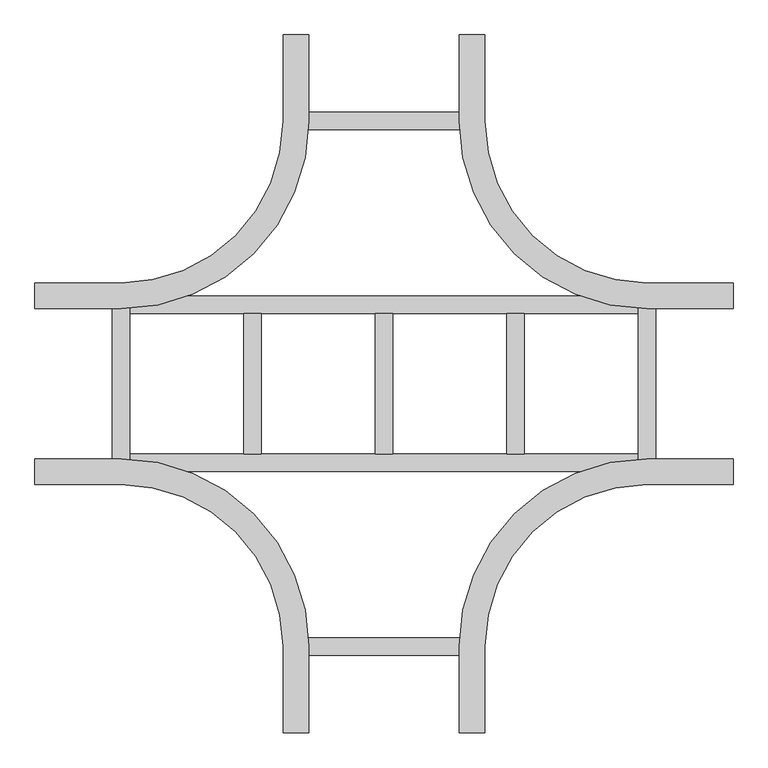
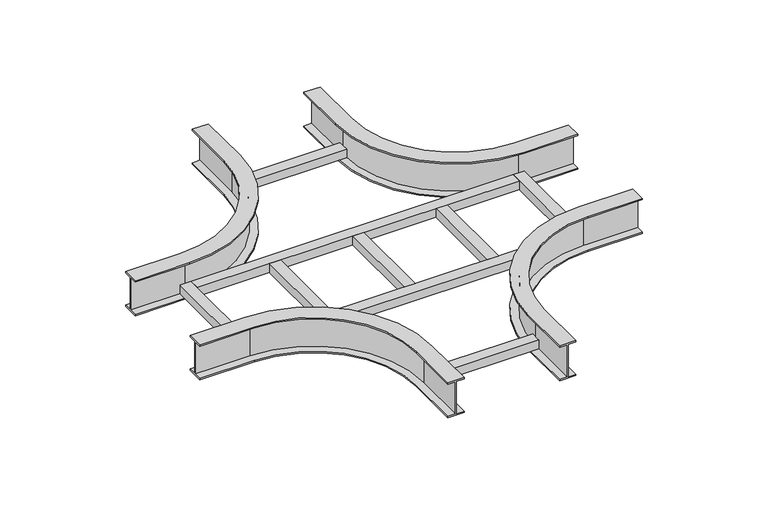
"""IFC4 building model written with IfcOpenShell, lengths in millimetres: cable carrier fitting geometry, CRI_Horizontal Cross-Over-Basortrav : Basortrav CRI-12."""

from ifc_helpers import new_model, si_unit, frame, origin, place, context, project, spatial, polyline, circle_curve, outline, extrude, source, transform, mapped, element, save
from ifc_brep_helpers import plane_surface, cylinder_surface, revolved_surface, advanced_brep


def cable_carrier_fitting_13366d08(model_context):
    return source(origin(), model_context, "Body", "SolidModel", [
        advanced_brep(
        [(607.2, 175.5115599, 46.8), (607.2, 175.5115599, 50.8), (607.2, 131.0115599, 50.8), (607.2, 131.0115599, 46.8), (607.2, 152.4, 46.8), (607.2, 152.4, -46.8), (607.2, 131.0115599, -46.8), (607.2, 131.0115599, -50.8), (607.2, 175.5115599, -50.8), (607.2, 175.5115599, -46.8), (607.2, 154.4, -46.8), (607.2, 154.4, 46.8), (175.5115599, 607.2, 46.8), (154.4, 607.2, 46.8), (154.4, 607.2, -46.8), (175.5115599, 607.2, -46.8), (175.5115599, 607.2, -50.8), (131.0115599, 607.2, -50.8), (131.0115599, 607.2, -46.8), (152.4, 607.2, -46.8), (152.4, 607.2, 46.8), (131.0115599, 607.2, 46.8), (131.0115599, 607.2, 50.8), (175.5115599, 607.2, 50.8), (457.2, 175.5115599, 46.8), (457.2, 175.5115599, 50.8), (175.5115599, 457.2, 50.8), (131.0115599, 457.2, 50.8), (457.2, 131.0115599, 50.8), (457.2, 131.0115599, 46.8), (131.0115599, 457.2, 46.8), (152.4, 457.2, 46.8), (457.2, 152.4, 46.8), (457.2, 152.4, -46.8), (152.4, 457.2, -46.8), (131.0115599, 457.2, -46.8), (457.2, 131.0115599, -46.8), (457.2, 131.0115599, -50.8), (131.0115599, 457.2, -50.8), (175.5115599, 457.2, -50.8), (457.2, 175.5115599, -50.8), (457.2, 175.5115599, -46.8), (175.5115599, 457.2, -46.8), (154.4, 457.2, -46.8), (457.2, 154.4, -46.8), (457.2, 154.4, 46.8), (154.4, 457.2, 46.8), (175.5115599, 457.2, 46.8)],
        [
            (0, 1),
            (1, 2),
            (2, 3),
            (3, 4),
            (4, 5),
            (5, 6),
            (6, 7),
            (7, 8),
            (8, 9),
            (9, 10),
            (10, 11),
            (11, 0),
            (12, 13),
            (13, 14),
            (14, 15),
            (15, 16),
            (16, 17),
            (17, 18),
            (18, 19),
            (19, 20),
            (20, 21),
            (21, 22),
            (22, 23),
            (23, 12),
            (0, 24),
            (24, 25),
            (25, 1),
            (25, 26, circle_curve(frame((457.2, 457.2, 50.8), z_axis=(0.0, 0.0, -1.0), x_axis=(0.0, -1.0, 0.0)), 281.6884401)),
            (26, 23),
            (22, 27),
            (27, 28, circle_curve(frame((457.2, 457.2, 50.8), z_axis=(0.0, 0.0, 1.0), x_axis=(0.0, -1.0, 0.0)), 326.1884401)),
            (28, 2),
            (28, 29),
            (29, 3),
            (29, 30, circle_curve(frame((457.2, 457.2, 46.8), z_axis=(0.0, 0.0, -1.0), x_axis=(0.0, -1.0, 0.0)), 326.1884401)),
            (30, 21),
            (20, 31),
            (31, 32, circle_curve(frame((457.2, 457.2, 46.8), z_axis=(0.0, 0.0, 1.0), x_axis=(0.0, -1.0, 0.0)), 304.8)),
            (32, 4),
            (32, 33),
            (33, 5),
            (33, 34, circle_curve(frame((457.2, 457.2, -46.8), z_axis=(0.0, 0.0, -1.0), x_axis=(0.0, -1.0, 0.0)), 304.8)),
            (34, 19),
            (18, 35),
            (35, 36, circle_curve(frame((457.2, 457.2, -46.8), z_axis=(0.0, 0.0, 1.0), x_axis=(0.0, -1.0, 0.0)), 326.1884401)),
            (36, 6),
            (36, 37),
            (37, 7),
            (37, 38, circle_curve(frame((457.2, 457.2, -50.8), z_axis=(0.0, 0.0, -1.0), x_axis=(0.0, -1.0, 0.0)), 326.1884401)),
            (38, 17),
            (16, 39),
            (39, 40, circle_curve(frame((457.2, 457.2, -50.8), z_axis=(0.0, 0.0, 1.0), x_axis=(0.0, -1.0, 0.0)), 281.6884401)),
            (40, 8),
            (40, 41),
            (41, 9),
            (41, 42, circle_curve(frame((457.2, 457.2, -46.8), z_axis=(0.0, 0.0, -1.0), x_axis=(0.0, -1.0, 0.0)), 281.6884401)),
            (42, 15),
            (14, 43),
            (43, 44, circle_curve(frame((457.2, 457.2, -46.8), z_axis=(0.0, 0.0, 1.0), x_axis=(0.0, -1.0, 0.0)), 302.8)),
            (44, 10),
            (44, 45),
            (45, 11),
            (45, 46, circle_curve(frame((457.2, 457.2, 46.8), z_axis=(0.0, 0.0, -1.0), x_axis=(0.0, -1.0, 0.0)), 302.8)),
            (46, 13),
            (12, 47),
            (47, 24, circle_curve(frame((457.2, 457.2, 46.8), z_axis=(0.0, 0.0, 1.0), x_axis=(0.0, -1.0, 0.0)), 281.6884401)),
            (47, 26),
            (27, 30),
            (31, 34),
            (35, 38),
            (39, 42),
            (43, 46),
        ],
        [
            plane_surface(frame((607.2, 152.4, 50.8), z_axis=(1.0, 0.0, 0.0), x_axis=(0.0, 0.0, 1.0))),
            plane_surface(frame((152.4, 607.2, 50.8), z_axis=(0.0, 1.0, 0.0), x_axis=(0.0, 0.0, 1.0))),
            plane_surface(frame((607.2, 175.5115599, 46.8), z_axis=(0.0, 1.0, 0.0), x_axis=(-1.0, 0.0, 0.0))),
            plane_surface(frame((607.2, 175.5115599, 50.8), z_axis=(0.0, 0.0, 1.0), x_axis=(-1.0, 0.0, 0.0))),
            plane_surface(frame((607.2, 131.0115599, 50.8), z_axis=(0.0, -1.0, 0.0), x_axis=(-1.0, 0.0, 0.0))),
            plane_surface(frame((607.2, 131.0115599, 46.8), z_axis=(0.0, 0.0, -1.0), x_axis=(-1.0, 0.0, 0.0))),
            plane_surface(frame((607.2, 152.4, 46.8), z_axis=(0.0, -1.0, 0.0), x_axis=(-1.0, 0.0, 0.0))),
            plane_surface(frame((607.2, 152.4, -46.8), z_axis=(0.0, 0.0, 1.0), x_axis=(-1.0, 0.0, 0.0))),
            plane_surface(frame((607.2, 131.0115599, -46.8), z_axis=(0.0, -1.0, 0.0), x_axis=(-1.0, 0.0, 0.0))),
            plane_surface(frame((607.2, 131.0115599, -50.8), z_axis=(0.0, 0.0, -1.0), x_axis=(-1.0, 0.0, 0.0))),
            plane_surface(frame((607.2, 175.5115599, -50.8), z_axis=(0.0, 1.0, 0.0), x_axis=(-1.0, 0.0, 0.0))),
            plane_surface(frame((607.2, 175.5115599, -46.8), z_axis=(0.0, 0.0, 1.0), x_axis=(-1.0, 0.0, 0.0))),
            plane_surface(frame((607.2, 154.4, -46.8), z_axis=(0.0, 1.0, 0.0), x_axis=(-1.0, 0.0, 0.0))),
            plane_surface(frame((607.2, 154.4, 46.8), z_axis=(0.0, 0.0, -1.0), x_axis=(-1.0, 0.0, 0.0))),
            revolved_surface(polyline([(457.2, 175.5115599, 46.8), (457.2, 175.5115599, 50.8)]), (457.2, 457.2, 50.8), (0.0, 0.0, -1.0)),
            cylinder_surface(frame((457.2, 457.2, 50.8), z_axis=(0.0, 0.0, -1.0), x_axis=(0.0, -1.0, 0.0)), 326.1884401),
            cylinder_surface(frame((457.2, 457.2, 50.8), z_axis=(0.0, 0.0, -1.0), x_axis=(0.0, -1.0, 0.0)), 304.8),
            revolved_surface(polyline([(457.2, 175.5115599, -50.8), (457.2, 175.5115599, -46.8)]), (457.2, 457.2, 50.8), (0.0, 0.0, -1.0)),
            revolved_surface(polyline([(457.2, 154.39999999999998, -46.8), (457.2, 154.39999999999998, 46.8)]), (457.2, 457.2, 50.8), (0.0, 0.0, -1.0)),
            plane_surface(frame((175.5115599, 457.2, 46.8), z_axis=(1.0, 0.0, 0.0), x_axis=(0.0, 1.0, 0.0))),
            plane_surface(frame((131.0115599, 457.2, 50.8), z_axis=(-1.0, 0.0, 0.0), x_axis=(0.0, 1.0, 0.0))),
            plane_surface(frame((152.4, 457.2, 46.8), z_axis=(-1.0, 0.0, 0.0), x_axis=(0.0, 1.0, 0.0))),
            plane_surface(frame((131.0115599, 457.2, -46.8), z_axis=(-1.0, 0.0, 0.0), x_axis=(0.0, 1.0, 0.0))),
            plane_surface(frame((175.5115599, 457.2, -50.8), z_axis=(1.0, 0.0, 0.0), x_axis=(0.0, 1.0, 0.0))),
            plane_surface(frame((154.4, 457.2, -46.8), z_axis=(1.0, 0.0, 0.0), x_axis=(0.0, 1.0, 0.0))),
        ],
        [
            (0, [[1, 2, 3, 4, 5, 6, 7, 8, 9, 10, 11, 12]]),
            (1, [[13, 14, 15, 16, 17, 18, 19, 20, 21, 22, 23, 24]]),
            (2, [[-1, 25, 26, 27]]),
            (3, [[-2, -27, 28, 29, -23, 30, 31, 32]]),
            (4, [[-3, -32, 33, 34]]),
            (5, [[-4, -34, 35, 36, -21, 37, 38, 39]]),
            (6, [[-5, -39, 40, 41]]),
            (7, [[-6, -41, 42, 43, -19, 44, 45, 46]]),
            (8, [[-7, -46, 47, 48]]),
            (9, [[-8, -48, 49, 50, -17, 51, 52, 53]]),
            (10, [[-9, -53, 54, 55]]),
            (11, [[-10, -55, 56, 57, -15, 58, 59, 60]]),
            (12, [[-11, -60, 61, 62]]),
            (13, [[-12, -62, 63, 64, -13, 65, 66, -25]]),
            (14, [[-28, -26, -66, 67]]),
            (15, [[-35, -33, -31, 68]]),
            (16, [[-42, -40, -38, 69]]),
            (15, [[-49, -47, -45, 70]]),
            (17, [[-56, -54, -52, 71]]),
            (18, [[-63, -61, -59, 72]]),
            (19, [[-67, -65, -24, -29]]),
            (20, [[-68, -30, -22, -36]]),
            (21, [[-69, -37, -20, -43]]),
            (22, [[-70, -44, -18, -50]]),
            (23, [[-71, -51, -16, -57]]),
            (24, [[-72, -58, -14, -64]]),
        ],
    ),
        advanced_brep(
        [(-175.5115599, 607.2, 46.8), (-175.5115599, 607.2, 50.8), (-131.0115599, 607.2, 50.8), (-131.0115599, 607.2, 46.8), (-152.4, 607.2, 46.8), (-152.4, 607.2, -46.8), (-131.0115599, 607.2, -46.8), (-131.0115599, 607.2, -50.8), (-175.5115599, 607.2, -50.8), (-175.5115599, 607.2, -46.8), (-154.4, 607.2, -46.8), (-154.4, 607.2, 46.8), (-607.2, 175.5115599, 46.8), (-607.2, 154.4, 46.8), (-607.2, 154.4, -46.8), (-607.2, 175.5115599, -46.8), (-607.2, 175.5115599, -50.8), (-607.2, 131.0115599, -50.8), (-607.2, 131.0115599, -46.8), (-607.2, 152.4, -46.8), (-607.2, 152.4, 46.8), (-607.2, 131.0115599, 46.8), (-607.2, 131.0115599, 50.8), (-607.2, 175.5115599, 50.8), (-175.5115599, 457.2, 46.8), (-175.5115599, 457.2, 50.8), (-457.2, 175.5115599, 50.8), (-457.2, 131.0115599, 50.8), (-131.0115599, 457.2, 50.8), (-131.0115599, 457.2, 46.8), (-457.2, 131.0115599, 46.8), (-457.2, 152.4, 46.8), (-152.4, 457.2, 46.8), (-152.4, 457.2, -46.8), (-457.2, 152.4, -46.8), (-457.2, 131.0115599, -46.8), (-131.0115599, 457.2, -46.8), (-131.0115599, 457.2, -50.8), (-457.2, 131.0115599, -50.8), (-457.2, 175.5115599, -50.8), (-175.5115599, 457.2, -50.8), (-175.5115599, 457.2, -46.8), (-457.2, 175.5115599, -46.8), (-457.2, 154.4, -46.8), (-154.4, 457.2, -46.8), (-154.4, 457.2, 46.8), (-457.2, 154.4, 46.8), (-457.2, 175.5115599, 46.8)],
        [
            (0, 1),
            (1, 2),
            (2, 3),
            (3, 4),
            (4, 5),
            (5, 6),
            (6, 7),
            (7, 8),
            (8, 9),
            (9, 10),
            (10, 11),
            (11, 0),
            (12, 13),
            (13, 14),
            (14, 15),
            (15, 16),
            (16, 17),
            (17, 18),
            (18, 19),
            (19, 20),
            (20, 21),
            (21, 22),
            (22, 23),
            (23, 12),
            (0, 24),
            (24, 25),
            (25, 1),
            (25, 26, circle_curve(frame((-457.2, 457.2, 50.8), z_axis=(0.0, 0.0, -1.0), x_axis=(1.0, 0.0, 0.0)), 281.6884401)),
            (26, 23),
            (22, 27),
            (27, 28, circle_curve(frame((-457.2, 457.2, 50.8), z_axis=(0.0, 0.0, 1.0), x_axis=(1.0, 0.0, 0.0)), 326.1884401)),
            (28, 2),
            (28, 29),
            (29, 3),
            (29, 30, circle_curve(frame((-457.2, 457.2, 46.8), z_axis=(0.0, 0.0, -1.0), x_axis=(1.0, 0.0, 0.0)), 326.1884401)),
            (30, 21),
            (20, 31),
            (31, 32, circle_curve(frame((-457.2, 457.2, 46.8), z_axis=(0.0, 0.0, 1.0), x_axis=(1.0, 0.0, 0.0)), 304.8)),
            (32, 4),
            (32, 33),
            (33, 5),
            (33, 34, circle_curve(frame((-457.2, 457.2, -46.8), z_axis=(0.0, 0.0, -1.0), x_axis=(1.0, 0.0, 0.0)), 304.8)),
            (34, 19),
            (18, 35),
            (35, 36, circle_curve(frame((-457.2, 457.2, -46.8), z_axis=(0.0, 0.0, 1.0), x_axis=(1.0, 0.0, 0.0)), 326.1884401)),
            (36, 6),
            (36, 37),
            (37, 7),
            (37, 38, circle_curve(frame((-457.2, 457.2, -50.8), z_axis=(0.0, 0.0, -1.0), x_axis=(1.0, 0.0, 0.0)), 326.1884401)),
            (38, 17),
            (16, 39),
            (39, 40, circle_curve(frame((-457.2, 457.2, -50.8), z_axis=(0.0, 0.0, 1.0), x_axis=(1.0, 0.0, 0.0)), 281.6884401)),
            (40, 8),
            (40, 41),
            (41, 9),
            (41, 42, circle_curve(frame((-457.2, 457.2, -46.8), z_axis=(0.0, 0.0, -1.0), x_axis=(1.0, 0.0, 0.0)), 281.6884401)),
            (42, 15),
            (14, 43),
            (43, 44, circle_curve(frame((-457.2, 457.2, -46.8), z_axis=(0.0, 0.0, 1.0), x_axis=(1.0, 0.0, 0.0)), 302.8)),
            (44, 10),
            (44, 45),
            (45, 11),
            (45, 46, circle_curve(frame((-457.2, 457.2, 46.8), z_axis=(0.0, 0.0, -1.0), x_axis=(1.0, 0.0, 0.0)), 302.8)),
            (46, 13),
            (12, 47),
            (47, 24, circle_curve(frame((-457.2, 457.2, 46.8), z_axis=(0.0, 0.0, 1.0), x_axis=(1.0, 0.0, 0.0)), 281.6884401)),
            (47, 26),
            (27, 30),
            (31, 34),
            (35, 38),
            (39, 42),
            (43, 46),
        ],
        [
            plane_surface(frame((-152.4, 607.2, 50.8), z_axis=(0.0, 1.0, 0.0), x_axis=(0.0, 0.0, 1.0))),
            plane_surface(frame((-607.2, 152.4, 50.8), z_axis=(-1.0, 0.0, 0.0), x_axis=(0.0, 0.0, 1.0))),
            plane_surface(frame((-175.5115599, 607.2, 46.8), z_axis=(-1.0, 0.0, 0.0), x_axis=(0.0, -1.0, 0.0))),
            plane_surface(frame((-175.5115599, 607.2, 50.8), z_axis=(0.0, 0.0, 1.0), x_axis=(0.0, -1.0, 0.0))),
            plane_surface(frame((-131.0115599, 607.2, 50.8), z_axis=(1.0, 0.0, 0.0), x_axis=(0.0, -1.0, 0.0))),
            plane_surface(frame((-131.0115599, 607.2, 46.8), z_axis=(0.0, 0.0, -1.0), x_axis=(0.0, -1.0, 0.0))),
            plane_surface(frame((-152.4, 607.2, 46.8), z_axis=(1.0, 0.0, 0.0), x_axis=(0.0, -1.0, 0.0))),
            plane_surface(frame((-152.4, 607.2, -46.8), z_axis=(0.0, 0.0, 1.0), x_axis=(0.0, -1.0, 0.0))),
            plane_surface(frame((-131.0115599, 607.2, -46.8), z_axis=(1.0, 0.0, 0.0), x_axis=(0.0, -1.0, 0.0))),
            plane_surface(frame((-131.0115599, 607.2, -50.8), z_axis=(0.0, 0.0, -1.0), x_axis=(0.0, -1.0, 0.0))),
            plane_surface(frame((-175.5115599, 607.2, -50.8), z_axis=(-1.0, 0.0, 0.0), x_axis=(0.0, -1.0, 0.0))),
            plane_surface(frame((-175.5115599, 607.2, -46.8), z_axis=(0.0, 0.0, 1.0), x_axis=(0.0, -1.0, 0.0))),
            plane_surface(frame((-154.4, 607.2, -46.8), z_axis=(-1.0, 0.0, 0.0), x_axis=(0.0, -1.0, 0.0))),
            plane_surface(frame((-154.4, 607.2, 46.8), z_axis=(0.0, 0.0, -1.0), x_axis=(0.0, -1.0, 0.0))),
            revolved_surface(polyline([(-175.5115599, 457.2, 46.8), (-175.5115599, 457.2, 50.8)]), (-457.2, 457.2, 50.8), (0.0, 0.0, -1.0)),
            cylinder_surface(frame((-457.2, 457.2, 50.8), z_axis=(0.0, 0.0, -1.0), x_axis=(1.0, 0.0, 0.0)), 326.1884401),
            cylinder_surface(frame((-457.2, 457.2, 50.8), z_axis=(0.0, 0.0, -1.0), x_axis=(1.0, 0.0, 0.0)), 304.8),
            revolved_surface(polyline([(-175.5115599, 457.2, -50.8), (-175.5115599, 457.2, -46.8)]), (-457.2, 457.2, 50.8), (0.0, 0.0, -1.0)),
            revolved_surface(polyline([(-154.39999999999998, 457.2, -46.8), (-154.39999999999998, 457.2, 46.8)]), (-457.2, 457.2, 50.8), (0.0, 0.0, -1.0)),
            plane_surface(frame((-457.2, 175.5115599, 46.8), z_axis=(0.0, 1.0, 0.0), x_axis=(-1.0, 0.0, 0.0))),
            plane_surface(frame((-457.2, 131.0115599, 50.8), z_axis=(0.0, -1.0, 0.0), x_axis=(-1.0, 0.0, 0.0))),
            plane_surface(frame((-457.2, 152.4, 46.8), z_axis=(0.0, -1.0, 0.0), x_axis=(-1.0, 0.0, 0.0))),
            plane_surface(frame((-457.2, 131.0115599, -46.8), z_axis=(0.0, -1.0, 0.0), x_axis=(-1.0, 0.0, 0.0))),
            plane_surface(frame((-457.2, 175.5115599, -50.8), z_axis=(0.0, 1.0, 0.0), x_axis=(-1.0, 0.0, 0.0))),
            plane_surface(frame((-457.2, 154.4, -46.8), z_axis=(0.0, 1.0, 0.0), x_axis=(-1.0, 0.0, 0.0))),
        ],
        [
            (0, [[1, 2, 3, 4, 5, 6, 7, 8, 9, 10, 11, 12]]),
            (1, [[13, 14, 15, 16, 17, 18, 19, 20, 21, 22, 23, 24]]),
            (2, [[-1, 25, 26, 27]]),
            (3, [[-2, -27, 28, 29, -23, 30, 31, 32]]),
            (4, [[-3, -32, 33, 34]]),
            (5, [[-4, -34, 35, 36, -21, 37, 38, 39]]),
            (6, [[-5, -39, 40, 41]]),
            (7, [[-6, -41, 42, 43, -19, 44, 45, 46]]),
            (8, [[-7, -46, 47, 48]]),
            (9, [[-8, -48, 49, 50, -17, 51, 52, 53]]),
            (10, [[-9, -53, 54, 55]]),
            (11, [[-10, -55, 56, 57, -15, 58, 59, 60]]),
            (12, [[-11, -60, 61, 62]]),
            (13, [[-12, -62, 63, 64, -13, 65, 66, -25]]),
            (14, [[-28, -26, -66, 67]]),
            (15, [[-35, -33, -31, 68]]),
            (16, [[-42, -40, -38, 69]]),
            (15, [[-49, -47, -45, 70]]),
            (17, [[-56, -54, -52, 71]]),
            (18, [[-63, -61, -59, 72]]),
            (19, [[-67, -65, -24, -29]]),
            (20, [[-68, -30, -22, -36]]),
            (21, [[-69, -37, -20, -43]]),
            (22, [[-70, -44, -18, -50]]),
            (23, [[-71, -51, -16, -57]]),
            (24, [[-72, -58, -14, -64]]),
        ],
    ),
        advanced_brep(
        [(175.5115599, -607.2, 46.8), (175.5115599, -607.2, 50.8), (131.0115599, -607.2, 50.8), (131.0115599, -607.2, 46.8), (152.4, -607.2, 46.8), (152.4, -607.2, -46.8), (131.0115599, -607.2, -46.8), (131.0115599, -607.2, -50.8), (175.5115599, -607.2, -50.8), (175.5115599, -607.2, -46.8), (154.4, -607.2, -46.8), (154.4, -607.2, 46.8), (607.2, -175.5115599, 46.8), (607.2, -154.4, 46.8), (607.2, -154.4, -46.8), (607.2, -175.5115599, -46.8), (607.2, -175.5115599, -50.8), (607.2, -131.0115599, -50.8), (607.2, -131.0115599, -46.8), (607.2, -152.4, -46.8), (607.2, -152.4, 46.8), (607.2, -131.0115599, 46.8), (607.2, -131.0115599, 50.8), (607.2, -175.5115599, 50.8), (175.5115599, -457.2, 46.8), (175.5115599, -457.2, 50.8), (457.2, -175.5115599, 50.8), (457.2, -131.0115599, 50.8), (131.0115599, -457.2, 50.8), (131.0115599, -457.2, 46.8), (457.2, -131.0115599, 46.8), (457.2, -152.4, 46.8), (152.4, -457.2, 46.8), (152.4, -457.2, -46.8), (457.2, -152.4, -46.8), (457.2, -131.0115599, -46.8), (131.0115599, -457.2, -46.8), (131.0115599, -457.2, -50.8), (457.2, -131.0115599, -50.8), (457.2, -175.5115599, -50.8), (175.5115599, -457.2, -50.8), (175.5115599, -457.2, -46.8), (457.2, -175.5115599, -46.8), (457.2, -154.4, -46.8), (154.4, -457.2, -46.8), (154.4, -457.2, 46.8), (457.2, -154.4, 46.8), (457.2, -175.5115599, 46.8)],
        [
            (0, 1),
            (1, 2),
            (2, 3),
            (3, 4),
            (4, 5),
            (5, 6),
            (6, 7),
            (7, 8),
            (8, 9),
            (9, 10),
            (10, 11),
            (11, 0),
            (12, 13),
            (13, 14),
            (14, 15),
            (15, 16),
            (16, 17),
            (17, 18),
            (18, 19),
            (19, 20),
            (20, 21),
            (21, 22),
            (22, 23),
            (23, 12),
            (0, 24),
            (24, 25),
            (25, 1),
            (25, 26, circle_curve(frame((457.2, -457.2, 50.8), z_axis=(0.0, 0.0, -1.0), x_axis=(-1.0, 0.0, 0.0)), 281.6884401)),
            (26, 23),
            (22, 27),
            (27, 28, circle_curve(frame((457.2, -457.2, 50.8), z_axis=(0.0, 0.0, 1.0), x_axis=(-1.0, 0.0, 0.0)), 326.1884401)),
            (28, 2),
            (28, 29),
            (29, 3),
            (29, 30, circle_curve(frame((457.2, -457.2, 46.8), z_axis=(0.0, 0.0, -1.0), x_axis=(-1.0, 0.0, 0.0)), 326.1884401)),
            (30, 21),
            (20, 31),
            (31, 32, circle_curve(frame((457.2, -457.2, 46.8), z_axis=(0.0, 0.0, 1.0), x_axis=(-1.0, 0.0, 0.0)), 304.8)),
            (32, 4),
            (32, 33),
            (33, 5),
            (33, 34, circle_curve(frame((457.2, -457.2, -46.8), z_axis=(0.0, 0.0, -1.0), x_axis=(-1.0, 0.0, 0.0)), 304.8)),
            (34, 19),
            (18, 35),
            (35, 36, circle_curve(frame((457.2, -457.2, -46.8), z_axis=(0.0, 0.0, 1.0), x_axis=(-1.0, 0.0, 0.0)), 326.1884401)),
            (36, 6),
            (36, 37),
            (37, 7),
            (37, 38, circle_curve(frame((457.2, -457.2, -50.8), z_axis=(0.0, 0.0, -1.0), x_axis=(-1.0, 0.0, 0.0)), 326.1884401)),
            (38, 17),
            (16, 39),
            (39, 40, circle_curve(frame((457.2, -457.2, -50.8), z_axis=(0.0, 0.0, 1.0), x_axis=(-1.0, 0.0, 0.0)), 281.6884401)),
            (40, 8),
            (40, 41),
            (41, 9),
            (41, 42, circle_curve(frame((457.2, -457.2, -46.8), z_axis=(0.0, 0.0, -1.0), x_axis=(-1.0, 0.0, 0.0)), 281.6884401)),
            (42, 15),
            (14, 43),
            (43, 44, circle_curve(frame((457.2, -457.2, -46.8), z_axis=(0.0, 0.0, 1.0), x_axis=(-1.0, 0.0, 0.0)), 302.8)),
            (44, 10),
            (44, 45),
            (45, 11),
            (45, 46, circle_curve(frame((457.2, -457.2, 46.8), z_axis=(0.0, 0.0, -1.0), x_axis=(-1.0, 0.0, 0.0)), 302.8)),
            (46, 13),
            (12, 47),
            (47, 24, circle_curve(frame((457.2, -457.2, 46.8), z_axis=(0.0, 0.0, 1.0), x_axis=(-1.0, 0.0, 0.0)), 281.6884401)),
            (47, 26),
            (27, 30),
            (31, 34),
            (35, 38),
            (39, 42),
            (43, 46),
        ],
        [
            plane_surface(frame((152.4, -607.2, 50.8), z_axis=(0.0, -1.0, 0.0), x_axis=(0.0, 0.0, 1.0))),
            plane_surface(frame((607.2, -152.4, 50.8), z_axis=(1.0, 0.0, 0.0), x_axis=(0.0, 0.0, 1.0))),
            plane_surface(frame((175.5115599, -607.2, 46.8), z_axis=(1.0, 0.0, 0.0), x_axis=(0.0, 1.0, 0.0))),
            plane_surface(frame((175.5115599, -607.2, 50.8), z_axis=(0.0, 0.0, 1.0), x_axis=(0.0, 1.0, 0.0))),
            plane_surface(frame((131.0115599, -607.2, 50.8), z_axis=(-1.0, 0.0, 0.0), x_axis=(0.0, 1.0, 0.0))),
            plane_surface(frame((131.0115599, -607.2, 46.8), z_axis=(0.0, 0.0, -1.0), x_axis=(0.0, 1.0, 0.0))),
            plane_surface(frame((152.4, -607.2, 46.8), z_axis=(-1.0, 0.0, 0.0), x_axis=(0.0, 1.0, 0.0))),
            plane_surface(frame((152.4, -607.2, -46.8), z_axis=(0.0, 0.0, 1.0), x_axis=(0.0, 1.0, 0.0))),
            plane_surface(frame((131.0115599, -607.2, -46.8), z_axis=(-1.0, 0.0, 0.0), x_axis=(0.0, 1.0, 0.0))),
            plane_surface(frame((131.0115599, -607.2, -50.8), z_axis=(0.0, 0.0, -1.0), x_axis=(0.0, 1.0, 0.0))),
            plane_surface(frame((175.5115599, -607.2, -50.8), z_axis=(1.0, 0.0, 0.0), x_axis=(0.0, 1.0, 0.0))),
            plane_surface(frame((175.5115599, -607.2, -46.8), z_axis=(0.0, 0.0, 1.0), x_axis=(0.0, 1.0, 0.0))),
            plane_surface(frame((154.4, -607.2, -46.8), z_axis=(1.0, 0.0, 0.0), x_axis=(0.0, 1.0, 0.0))),
            plane_surface(frame((154.4, -607.2, 46.8), z_axis=(0.0, 0.0, -1.0), x_axis=(0.0, 1.0, 0.0))),
            revolved_surface(polyline([(175.5115599, -457.2, 46.8), (175.5115599, -457.2, 50.8)]), (457.2, -457.2, 50.8), (0.0, 0.0, -1.0)),
            cylinder_surface(frame((457.2, -457.2, 50.8), z_axis=(0.0, 0.0, -1.0), x_axis=(-1.0, 0.0, 0.0)), 326.1884401),
            cylinder_surface(frame((457.2, -457.2, 50.8), z_axis=(0.0, 0.0, -1.0), x_axis=(-1.0, 0.0, 0.0)), 304.8),
            revolved_surface(polyline([(175.5115599, -457.2, -50.8), (175.5115599, -457.2, -46.8)]), (457.2, -457.2, 50.8), (0.0, 0.0, -1.0)),
            revolved_surface(polyline([(154.39999999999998, -457.2, -46.8), (154.39999999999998, -457.2, 46.8)]), (457.2, -457.2, 50.8), (0.0, 0.0, -1.0)),
            plane_surface(frame((457.2, -175.5115599, 46.8), z_axis=(0.0, -1.0, 0.0), x_axis=(1.0, 0.0, 0.0))),
            plane_surface(frame((457.2, -131.0115599, 50.8), z_axis=(0.0, 1.0, 0.0), x_axis=(1.0, 0.0, 0.0))),
            plane_surface(frame((457.2, -152.4, 46.8), z_axis=(0.0, 1.0, 0.0), x_axis=(1.0, 0.0, 0.0))),
            plane_surface(frame((457.2, -131.0115599, -46.8), z_axis=(0.0, 1.0, 0.0), x_axis=(1.0, 0.0, 0.0))),
            plane_surface(frame((457.2, -175.5115599, -50.8), z_axis=(0.0, -1.0, 0.0), x_axis=(1.0, 0.0, 0.0))),
            plane_surface(frame((457.2, -154.4, -46.8), z_axis=(0.0, -1.0, 0.0), x_axis=(1.0, 0.0, 0.0))),
        ],
        [
            (0, [[1, 2, 3, 4, 5, 6, 7, 8, 9, 10, 11, 12]]),
            (1, [[13, 14, 15, 16, 17, 18, 19, 20, 21, 22, 23, 24]]),
            (2, [[-1, 25, 26, 27]]),
            (3, [[-2, -27, 28, 29, -23, 30, 31, 32]]),
            (4, [[-3, -32, 33, 34]]),
            (5, [[-4, -34, 35, 36, -21, 37, 38, 39]]),
            (6, [[-5, -39, 40, 41]]),
            (7, [[-6, -41, 42, 43, -19, 44, 45, 46]]),
            (8, [[-7, -46, 47, 48]]),
            (9, [[-8, -48, 49, 50, -17, 51, 52, 53]]),
            (10, [[-9, -53, 54, 55]]),
            (11, [[-10, -55, 56, 57, -15, 58, 59, 60]]),
            (12, [[-11, -60, 61, 62]]),
            (13, [[-12, -62, 63, 64, -13, 65, 66, -25]]),
            (14, [[-28, -26, -66, 67]]),
            (15, [[-35, -33, -31, 68]]),
            (16, [[-42, -40, -38, 69]]),
            (15, [[-49, -47, -45, 70]]),
            (17, [[-56, -54, -52, 71]]),
            (18, [[-63, -61, -59, 72]]),
            (19, [[-67, -65, -24, -29]]),
            (20, [[-68, -30, -22, -36]]),
            (21, [[-69, -37, -20, -43]]),
            (22, [[-70, -44, -18, -50]]),
            (23, [[-71, -51, -16, -57]]),
            (24, [[-72, -58, -14, -64]]),
        ],
    ),
        advanced_brep(
        [(-607.2, -175.5115599, 46.8), (-607.2, -175.5115599, 50.8), (-607.2, -131.0115599, 50.8), (-607.2, -131.0115599, 46.8), (-607.2, -152.4, 46.8), (-607.2, -152.4, -46.8), (-607.2, -131.0115599, -46.8), (-607.2, -131.0115599, -50.8), (-607.2, -175.5115599, -50.8), (-607.2, -175.5115599, -46.8), (-607.2, -154.4, -46.8), (-607.2, -154.4, 46.8), (-175.5115599, -607.2, 46.8), (-154.4, -607.2, 46.8), (-154.4, -607.2, -46.8), (-175.5115599, -607.2, -46.8), (-175.5115599, -607.2, -50.8), (-131.0115599, -607.2, -50.8), (-131.0115599, -607.2, -46.8), (-152.4, -607.2, -46.8), (-152.4, -607.2, 46.8), (-131.0115599, -607.2, 46.8), (-131.0115599, -607.2, 50.8), (-175.5115599, -607.2, 50.8), (-457.2, -175.5115599, 46.8), (-457.2, -175.5115599, 50.8), (-175.5115599, -457.2, 50.8), (-131.0115599, -457.2, 50.8), (-457.2, -131.0115599, 50.8), (-457.2, -131.0115599, 46.8), (-131.0115599, -457.2, 46.8), (-152.4, -457.2, 46.8), (-457.2, -152.4, 46.8), (-457.2, -152.4, -46.8), (-152.4, -457.2, -46.8), (-131.0115599, -457.2, -46.8), (-457.2, -131.0115599, -46.8), (-457.2, -131.0115599, -50.8), (-131.0115599, -457.2, -50.8), (-175.5115599, -457.2, -50.8), (-457.2, -175.5115599, -50.8), (-457.2, -175.5115599, -46.8), (-175.5115599, -457.2, -46.8), (-154.4, -457.2, -46.8), (-457.2, -154.4, -46.8), (-457.2, -154.4, 46.8), (-154.4, -457.2, 46.8), (-175.5115599, -457.2, 46.8)],
        [
            (0, 1),
            (1, 2),
            (2, 3),
            (3, 4),
            (4, 5),
            (5, 6),
            (6, 7),
            (7, 8),
            (8, 9),
            (9, 10),
            (10, 11),
            (11, 0),
            (12, 13),
            (13, 14),
            (14, 15),
            (15, 16),
            (16, 17),
            (17, 18),
            (18, 19),
            (19, 20),
            (20, 21),
            (21, 22),
            (22, 23),
            (23, 12),
            (0, 24),
            (24, 25),
            (25, 1),
            (25, 26, circle_curve(frame((-457.2, -457.2, 50.8), z_axis=(0.0, 0.0, -1.0), x_axis=(0.0, 1.0, 0.0)), 281.6884401)),
            (26, 23),
            (22, 27),
            (27, 28, circle_curve(frame((-457.2, -457.2, 50.8), z_axis=(0.0, 0.0, 1.0), x_axis=(0.0, 1.0, 0.0)), 326.1884401)),
            (28, 2),
            (28, 29),
            (29, 3),
            (29, 30, circle_curve(frame((-457.2, -457.2, 46.8), z_axis=(0.0, 0.0, -1.0), x_axis=(0.0, 1.0, 0.0)), 326.1884401)),
            (30, 21),
            (20, 31),
            (31, 32, circle_curve(frame((-457.2, -457.2, 46.8), z_axis=(0.0, 0.0, 1.0), x_axis=(0.0, 1.0, 0.0)), 304.8)),
            (32, 4),
            (32, 33),
            (33, 5),
            (33, 34, circle_curve(frame((-457.2, -457.2, -46.8), z_axis=(0.0, 0.0, -1.0), x_axis=(0.0, 1.0, 0.0)), 304.8)),
            (34, 19),
            (18, 35),
            (35, 36, circle_curve(frame((-457.2, -457.2, -46.8), z_axis=(0.0, 0.0, 1.0), x_axis=(0.0, 1.0, 0.0)), 326.1884401)),
            (36, 6),
            (36, 37),
            (37, 7),
            (37, 38, circle_curve(frame((-457.2, -457.2, -50.8), z_axis=(0.0, 0.0, -1.0), x_axis=(0.0, 1.0, 0.0)), 326.1884401)),
            (38, 17),
            (16, 39),
            (39, 40, circle_curve(frame((-457.2, -457.2, -50.8), z_axis=(0.0, 0.0, 1.0), x_axis=(0.0, 1.0, 0.0)), 281.6884401)),
            (40, 8),
            (40, 41),
            (41, 9),
            (41, 42, circle_curve(frame((-457.2, -457.2, -46.8), z_axis=(0.0, 0.0, -1.0), x_axis=(0.0, 1.0, 0.0)), 281.6884401)),
            (42, 15),
            (14, 43),
            (43, 44, circle_curve(frame((-457.2, -457.2, -46.8), z_axis=(0.0, 0.0, 1.0), x_axis=(0.0, 1.0, 0.0)), 302.8)),
            (44, 10),
            (44, 45),
            (45, 11),
            (45, 46, circle_curve(frame((-457.2, -457.2, 46.8), z_axis=(0.0, 0.0, -1.0), x_axis=(0.0, 1.0, 0.0)), 302.8)),
            (46, 13),
            (12, 47),
            (47, 24, circle_curve(frame((-457.2, -457.2, 46.8), z_axis=(0.0, 0.0, 1.0), x_axis=(0.0, 1.0, 0.0)), 281.6884401)),
            (47, 26),
            (27, 30),
            (31, 34),
            (35, 38),
            (39, 42),
            (43, 46),
        ],
        [
            plane_surface(frame((-607.2, -152.4, 50.8), z_axis=(-1.0, 0.0, 0.0), x_axis=(0.0, 0.0, 1.0))),
            plane_surface(frame((-152.4, -607.2, 50.8), z_axis=(0.0, -1.0, 0.0), x_axis=(0.0, 0.0, 1.0))),
            plane_surface(frame((-607.2, -175.5115599, 46.8), z_axis=(0.0, -1.0, 0.0), x_axis=(1.0, 0.0, 0.0))),
            plane_surface(frame((-607.2, -175.5115599, 50.8), z_axis=(0.0, 0.0, 1.0), x_axis=(1.0, 0.0, 0.0))),
            plane_surface(frame((-607.2, -131.0115599, 50.8), z_axis=(0.0, 1.0, 0.0), x_axis=(1.0, 0.0, 0.0))),
            plane_surface(frame((-607.2, -131.0115599, 46.8), z_axis=(0.0, 0.0, -1.0), x_axis=(1.0, 0.0, 0.0))),
            plane_surface(frame((-607.2, -152.4, 46.8), z_axis=(0.0, 1.0, 0.0), x_axis=(1.0, 0.0, 0.0))),
            plane_surface(frame((-607.2, -152.4, -46.8), z_axis=(0.0, 0.0, 1.0), x_axis=(1.0, 0.0, 0.0))),
            plane_surface(frame((-607.2, -131.0115599, -46.8), z_axis=(0.0, 1.0, 0.0), x_axis=(1.0, 0.0, 0.0))),
            plane_surface(frame((-607.2, -131.0115599, -50.8), z_axis=(0.0, 0.0, -1.0), x_axis=(1.0, 0.0, 0.0))),
            plane_surface(frame((-607.2, -175.5115599, -50.8), z_axis=(0.0, -1.0, 0.0), x_axis=(1.0, 0.0, 0.0))),
            plane_surface(frame((-607.2, -175.5115599, -46.8), z_axis=(0.0, 0.0, 1.0), x_axis=(1.0, 0.0, 0.0))),
            plane_surface(frame((-607.2, -154.4, -46.8), z_axis=(0.0, -1.0, 0.0), x_axis=(1.0, 0.0, 0.0))),
            plane_surface(frame((-607.2, -154.4, 46.8), z_axis=(0.0, 0.0, -1.0), x_axis=(1.0, 0.0, 0.0))),
            revolved_surface(polyline([(-457.2, -175.5115599, 46.8), (-457.2, -175.5115599, 50.8)]), (-457.2, -457.2, 50.8), (0.0, 0.0, -1.0)),
            cylinder_surface(frame((-457.2, -457.2, 50.8), z_axis=(0.0, 0.0, -1.0), x_axis=(0.0, 1.0, 0.0)), 326.1884401),
            cylinder_surface(frame((-457.2, -457.2, 50.8), z_axis=(0.0, 0.0, -1.0), x_axis=(0.0, 1.0, 0.0)), 304.8),
            revolved_surface(polyline([(-457.2, -175.5115599, -50.8), (-457.2, -175.5115599, -46.8)]), (-457.2, -457.2, 50.8), (0.0, 0.0, -1.0)),
            revolved_surface(polyline([(-457.2, -154.39999999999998, -46.8), (-457.2, -154.39999999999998, 46.8)]), (-457.2, -457.2, 50.8), (0.0, 0.0, -1.0)),
            plane_surface(frame((-175.5115599, -457.2, 46.8), z_axis=(-1.0, 0.0, 0.0), x_axis=(0.0, -1.0, 0.0))),
            plane_surface(frame((-131.0115599, -457.2, 50.8), z_axis=(1.0, 0.0, 0.0), x_axis=(0.0, -1.0, 0.0))),
            plane_surface(frame((-152.4, -457.2, 46.8), z_axis=(1.0, 0.0, 0.0), x_axis=(0.0, -1.0, 0.0))),
            plane_surface(frame((-131.0115599, -457.2, -46.8), z_axis=(1.0, 0.0, 0.0), x_axis=(0.0, -1.0, 0.0))),
            plane_surface(frame((-175.5115599, -457.2, -50.8), z_axis=(-1.0, 0.0, 0.0), x_axis=(0.0, -1.0, 0.0))),
            plane_surface(frame((-154.4, -457.2, -46.8), z_axis=(-1.0, 0.0, 0.0), x_axis=(0.0, -1.0, 0.0))),
        ],
        [
            (0, [[1, 2, 3, 4, 5, 6, 7, 8, 9, 10, 11, 12]]),
            (1, [[13, 14, 15, 16, 17, 18, 19, 20, 21, 22, 23, 24]]),
            (2, [[-1, 25, 26, 27]]),
            (3, [[-2, -27, 28, 29, -23, 30, 31, 32]]),
            (4, [[-3, -32, 33, 34]]),
            (5, [[-4, -34, 35, 36, -21, 37, 38, 39]]),
            (6, [[-5, -39, 40, 41]]),
            (7, [[-6, -41, 42, 43, -19, 44, 45, 46]]),
            (8, [[-7, -46, 47, 48]]),
            (9, [[-8, -48, 49, 50, -17, 51, 52, 53]]),
            (10, [[-9, -53, 54, 55]]),
            (11, [[-10, -55, 56, 57, -15, 58, 59, 60]]),
            (12, [[-11, -60, 61, 62]]),
            (13, [[-12, -62, 63, 64, -13, 65, 66, -25]]),
            (14, [[-28, -26, -66, 67]]),
            (15, [[-35, -33, -31, 68]]),
            (16, [[-42, -40, -38, 69]]),
            (15, [[-49, -47, -45, 70]]),
            (17, [[-56, -54, -52, 71]]),
            (18, [[-63, -61, -59, 72]]),
            (19, [[-67, -65, -24, -29]]),
            (20, [[-68, -30, -22, -36]]),
            (21, [[-69, -37, -20, -43]]),
            (22, [[-70, -44, -18, -50]]),
            (23, [[-71, -51, -16, -57]]),
            (24, [[-72, -58, -14, -64]]),
        ],
    ),
        extrude(outline(polyline([(152.4, -472.45), (-152.4, -472.45), (-152.4, -441.95), (152.4, -441.95), (152.4, -472.45)])), frame((0.0, 0.0, -46.8), z_axis=(0.0, 0.0, 1.0), x_axis=(1.0, 0.0, 0.0)), (0.0, 0.0, 1.0), 25.4),
        extrude(outline(polyline([(152.4, 472.45), (152.4, 441.95), (-152.4, 441.95), (-152.4, 472.45), (152.4, 472.45)])), frame((0.0, 0.0, -46.8), z_axis=(0.0, 0.0, 1.0), x_axis=(1.0, 0.0, 0.0)), (0.0, 0.0, 1.0), 25.4),
        extrude(outline(polyline([(472.45, 152.4), (472.45, -152.4), (441.95, -152.4), (441.95, 152.4), (472.45, 152.4)])), frame((0.0, 0.0, -46.8), z_axis=(0.0, 0.0, 1.0), x_axis=(1.0, 0.0, 0.0)), (0.0, 0.0, 1.0), 25.4),
        extrude(outline(polyline([(243.85, 121.9), (243.85, -121.9), (213.35, -121.9), (213.35, 121.9), (243.85, 121.9)])), frame((0.0, 0.0, -46.8), z_axis=(0.0, 0.0, 1.0), x_axis=(1.0, 0.0, 0.0)), (0.0, 0.0, 1.0), 25.4),
        extrude(outline(polyline([(15.25, 121.9), (15.25, -121.9), (-15.25, -121.9), (-15.25, 121.9), (15.25, 121.9)])), frame((0.0, 0.0, -46.8), z_axis=(0.0, 0.0, 1.0), x_axis=(1.0, 0.0, 0.0)), (0.0, 0.0, 1.0), 25.4),
        extrude(outline(polyline([(-213.35, 121.9), (-213.35, -121.9), (-243.85, -121.9), (-243.85, 121.9), (-213.35, 121.9)])), frame((0.0, 0.0, -46.8), z_axis=(0.0, 0.0, 1.0), x_axis=(1.0, 0.0, 0.0)), (0.0, 0.0, 1.0), 25.4),
        extrude(outline(polyline([(-441.95, 152.4), (-441.95, -152.4), (-472.45, -152.4), (-472.45, 152.4), (-441.95, 152.4)])), frame((0.0, 0.0, -46.8), z_axis=(0.0, 0.0, 1.0), x_axis=(1.0, 0.0, 0.0)), (0.0, 0.0, 1.0), 25.4),
        extrude(outline(polyline([(441.95, -121.9), (441.95, -152.4), (-441.95, -152.4), (-441.95, -121.9), (441.95, -121.9)])), frame((0.0, 0.0, -46.8), z_axis=(0.0, 0.0, 1.0), x_axis=(1.0, 0.0, 0.0)), (0.0, 0.0, 1.0), 25.4),
        extrude(outline(polyline([(441.95, 152.4), (441.95, 121.9), (-441.95, 121.9), (-441.95, 152.4), (441.95, 152.4)])), frame((0.0, 0.0, -46.8), z_axis=(0.0, 0.0, 1.0), x_axis=(1.0, 0.0, 0.0)), (0.0, 0.0, 1.0), 25.4),
    ])


if __name__ == "__main__":
    model = new_model("IFC4")
    model_context = context("Model", 3, world=origin())
    ifc_project = project(units=[si_unit("LENGTHUNIT", "METRE", prefix="MILLI")], contexts=[model_context])
    site = spatial("IfcSite", under=ifc_project)
    building = spatial("IfcBuilding", under=site)
    placement = place(None, origin())
    cable_carrier_fitting_shape = cable_carrier_fitting_13366d08(model_context)
    element("IfcCableCarrierFitting", 1, ObjectType="CRI_Horizontal Cross-Over-Basortrav : Basortrav CRI-12", at=placement, inside=building, context=model_context, shape_type="MappedRepresentation", body=[
        mapped(cable_carrier_fitting_shape, transform((0.0, 0.0, 0.0), x_axis=(1.0, 0.0, 0.0), y_axis=(0.0, 1.0, 0.0), z_axis=(0.0, 0.0, 1.0))),
    ])
    save(model, "model.ifc")
